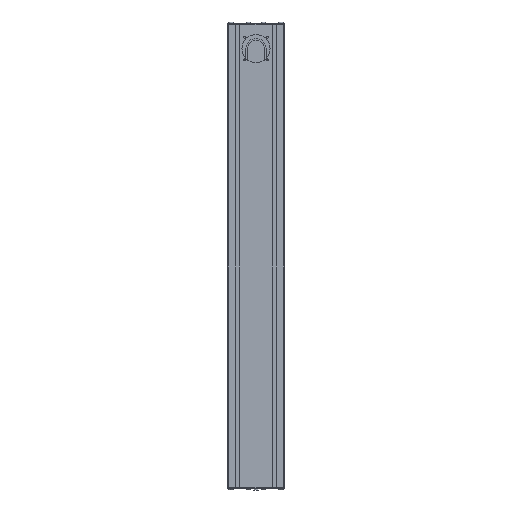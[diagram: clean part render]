
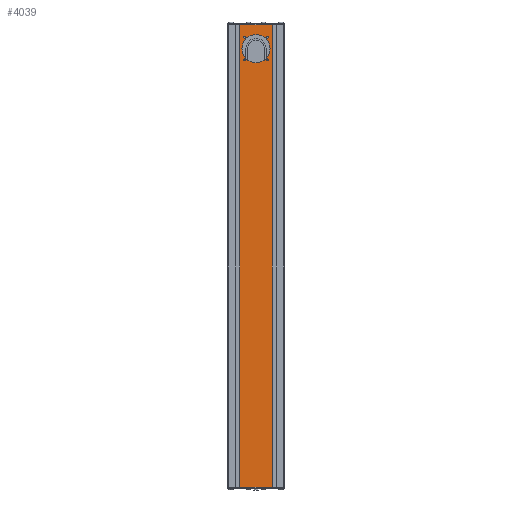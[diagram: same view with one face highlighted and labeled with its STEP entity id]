
A CAD part, front view. The second image highlights one B-rep face of the part: STEP entity #4039.
In plain terms, the highlighted planar face has unit normal (0, -1, 0).
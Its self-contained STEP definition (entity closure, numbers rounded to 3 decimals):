
#131 = DIRECTION ( 'NONE',  ( 0., -1., 0. ) ) ;
#152 = DIRECTION ( 'NONE',  ( 0., -1., 0. ) ) ;
#245 = CARTESIAN_POINT ( 'NONE',  ( 24.04, 0., 416.86 ) ) ;
#782 = DIRECTION ( 'NONE',  ( 0., -1., 0. ) ) ;
#1415 = CIRCLE ( 'NONE', #19534, 2.1 ) ;
#1771 = DIRECTION ( 'NONE',  ( 0., -1., 0. ) ) ;
#2212 = AXIS2_PLACEMENT_3D ( 'NONE', #22290, #2559, #16471 ) ;
#2431 = FACE_BOUND ( 'NONE', #14568, .T. ) ;
#2462 = ORIENTED_EDGE ( 'NONE', *, *, #14782, .F. ) ;
#2559 = DIRECTION ( 'NONE',  ( 0., -1., 0. ) ) ;
#2558 = AXIS2_PLACEMENT_3D ( 'NONE', #9844, #7104, #28988 ) ;
#2650 = EDGE_CURVE ( 'NONE', #35476, #6066, #8100, .T. ) ;
#2796 = PLANE ( 'NONE',  #12703 ) ;
#3815 = CARTESIAN_POINT ( 'NONE',  ( 0., 0., 443. ) ) ;
#3887 = DIRECTION ( 'NONE',  ( 0., 0., -1. ) ) ;
#4039 = ADVANCED_FACE ( 'NONE', ( #2431, #22694, #21989, #8126, #19282, #17068 ), #2796, .F. ) ;
#4565 = ORIENTED_EDGE ( 'NONE', *, *, #32263, .F. ) ;
#4613 = EDGE_CURVE ( 'NONE', #4957, #4918, #20094, .T. ) ;
#4918 = VERTEX_POINT ( 'NONE', #30763 ) ;
#4957 = VERTEX_POINT ( 'NONE', #20221 ) ;
#5219 = CARTESIAN_POINT ( 'NONE',  ( 34.95, 0., 494. ) ) ;
#5381 = CARTESIAN_POINT ( 'NONE',  ( -34.95, 0., 494. ) ) ;
#5587 = CARTESIAN_POINT ( 'NONE',  ( -24.04, 0., 416.86 ) ) ;
#5885 = CARTESIAN_POINT ( 'NONE',  ( 24.04, 0., 421.06 ) ) ;
#6066 = VERTEX_POINT ( 'NONE', #5587 ) ;
#6593 = VERTEX_POINT ( 'NONE', #32403 ) ;
#7071 = VECTOR ( 'NONE', #31847, 1000. ) ;
#7104 = DIRECTION ( 'NONE',  ( 0., -1., 0. ) ) ;
#7206 = DIRECTION ( 'NONE',  ( 1., 0., 0. ) ) ;
#7447 = DIRECTION ( 'NONE',  ( 0., -1., 0. ) ) ;
#7483 = EDGE_CURVE ( 'NONE', #33977, #27487, #31946, .T. ) ;
#7507 = VERTEX_POINT ( 'NONE', #23449 ) ;
#7861 = AXIS2_PLACEMENT_3D ( 'NONE', #3815, #1771, #23553 ) ;
#8100 = CIRCLE ( 'NONE', #2212, 2.1 ) ;
#8126 = FACE_BOUND ( 'NONE', #10744, .T. ) ;
#8374 = CARTESIAN_POINT ( 'NONE',  ( -24.04, 0., 467.04 ) ) ;
#9064 = ORIENTED_EDGE ( 'NONE', *, *, #14430, .F. ) ;
#9099 = CARTESIAN_POINT ( 'NONE',  ( -24.04, 0., 464.94 ) ) ;
#9434 = DIRECTION ( 'NONE',  ( 0., 0., -1. ) ) ;
#9448 = CIRCLE ( 'NONE', #18192, 30. ) ;
#9770 = LINE ( 'NONE', #15425, #13464 ) ;
#9844 = CARTESIAN_POINT ( 'NONE',  ( 24.04, 0., 467.04 ) ) ;
#10188 = CIRCLE ( 'NONE', #7861, 30. ) ;
#10660 = VECTOR ( 'NONE', #25049, 1000. ) ;
#10744 = EDGE_LOOP ( 'NONE', ( #30794, #9064 ) ) ;
#10990 = VERTEX_POINT ( 'NONE', #34581 ) ;
#11299 = DIRECTION ( 'NONE',  ( 0., 0., -1. ) ) ;
#11654 = EDGE_CURVE ( 'NONE', #34949, #10990, #10188, .T. ) ;
#11984 = EDGE_CURVE ( 'NONE', #28811, #32524, #1415, .T. ) ;
#12020 = EDGE_CURVE ( 'NONE', #7507, #6593, #23146, .T. ) ;
#12428 = AXIS2_PLACEMENT_3D ( 'NONE', #21318, #7447, #32582 ) ;
#12703 = AXIS2_PLACEMENT_3D ( 'NONE', #5381, #19643, #30719 ) ;
#13464 = VECTOR ( 'NONE', #7206, 1000. ) ;
#13926 = EDGE_CURVE ( 'NONE', #7507, #35451, #14317, .T. ) ;
#14097 = DIRECTION ( 'NONE',  ( 0., -1., 0. ) ) ;
#14317 = LINE ( 'NONE', #30710, #10660 ) ;
#14430 = EDGE_CURVE ( 'NONE', #4918, #4957, #15205, .T. ) ;
#14457 = VERTEX_POINT ( 'NONE', #14546 ) ;
#14546 = CARTESIAN_POINT ( 'NONE',  ( 34.95, 0., -494. ) ) ;
#14568 = EDGE_LOOP ( 'NONE', ( #2462, #30085 ) ) ;
#14782 = EDGE_CURVE ( 'NONE', #27487, #33977, #26249, .T. ) ;
#14972 = ORIENTED_EDGE ( 'NONE', *, *, #13926, .F. ) ;
#14983 = EDGE_CURVE ( 'NONE', #10990, #34949, #9448, .T. ) ;
#15174 = ORIENTED_EDGE ( 'NONE', *, *, #22604, .T. ) ;
#15202 = EDGE_LOOP ( 'NONE', ( #35811, #22797 ) ) ;
#15205 = CIRCLE ( 'NONE', #15777, 2.1 ) ;
#15425 = CARTESIAN_POINT ( 'NONE',  ( -34.95, 0., -494. ) ) ;
#15489 = EDGE_CURVE ( 'NONE', #35451, #14457, #16169, .T. ) ;
#15777 = AXIS2_PLACEMENT_3D ( 'NONE', #28930, #17469, #9434 ) ;
#16169 = LINE ( 'NONE', #26732, #18814 ) ;
#16471 = DIRECTION ( 'NONE',  ( 0., 0., -1. ) ) ;
#17068 = FACE_OUTER_BOUND ( 'NONE', #32167, .T. ) ;
#17469 = DIRECTION ( 'NONE',  ( 0., -1., 0. ) ) ;
#18192 = AXIS2_PLACEMENT_3D ( 'NONE', #22110, #14097, #33221 ) ;
#18814 = VECTOR ( 'NONE', #32368, 1000. ) ;
#18923 = EDGE_LOOP ( 'NONE', ( #19703, #19370 ) ) ;
#19005 = DIRECTION ( 'NONE',  ( 0., 0., -1. ) ) ;
#19282 = FACE_BOUND ( 'NONE', #15202, .T. ) ;
#19370 = ORIENTED_EDGE ( 'NONE', *, *, #2650, .F. ) ;
#19534 = AXIS2_PLACEMENT_3D ( 'NONE', #8374, #131, #11299 ) ;
#19546 = CARTESIAN_POINT ( 'NONE',  ( -24.04, 0., 418.96 ) ) ;
#19643 = DIRECTION ( 'NONE',  ( 0., 1., 0. ) ) ;
#19667 = CARTESIAN_POINT ( 'NONE',  ( -24.04, 0., 421.06 ) ) ;
#19703 = ORIENTED_EDGE ( 'NONE', *, *, #31726, .F. ) ;
#20094 = CIRCLE ( 'NONE', #2558, 2.1 ) ;
#20221 = CARTESIAN_POINT ( 'NONE',  ( 24.04, 0., 464.94 ) ) ;
#20398 = CARTESIAN_POINT ( 'NONE',  ( -24.04, 0., 469.14 ) ) ;
#20718 = DIRECTION ( 'NONE',  ( 0., -1., 0. ) ) ;
#21318 = CARTESIAN_POINT ( 'NONE',  ( -24.04, 0., 467.04 ) ) ;
#21989 = FACE_BOUND ( 'NONE', #27698, .T. ) ;
#22110 = CARTESIAN_POINT ( 'NONE',  ( 0., 0., 443. ) ) ;
#22290 = CARTESIAN_POINT ( 'NONE',  ( -24.04, 0., 418.96 ) ) ;
#22604 = EDGE_CURVE ( 'NONE', #6593, #14457, #9770, .T. ) ;
#22694 = FACE_BOUND ( 'NONE', #18923, .T. ) ;
#22797 = ORIENTED_EDGE ( 'NONE', *, *, #14983, .F. ) ;
#22863 = CIRCLE ( 'NONE', #12428, 2.1 ) ;
#23146 = LINE ( 'NONE', #34239, #7071 ) ;
#23449 = CARTESIAN_POINT ( 'NONE',  ( -34.95, 0., 494. ) ) ;
#23456 = CIRCLE ( 'NONE', #24014, 2.1 ) ;
#23553 = DIRECTION ( 'NONE',  ( 0., 0., -1. ) ) ;
#23802 = CARTESIAN_POINT ( 'NONE',  ( 24.04, 0., 418.96 ) ) ;
#24014 = AXIS2_PLACEMENT_3D ( 'NONE', #19546, #152, #19005 ) ;
#25049 = DIRECTION ( 'NONE',  ( 1., 0., 0. ) ) ;
#26249 = CIRCLE ( 'NONE', #34385, 2.1 ) ;
#26732 = CARTESIAN_POINT ( 'NONE',  ( 34.95, 0., 494. ) ) ;
#27487 = VERTEX_POINT ( 'NONE', #245 ) ;
#27698 = EDGE_LOOP ( 'NONE', ( #28233, #4565 ) ) ;
#28233 = ORIENTED_EDGE ( 'NONE', *, *, #11984, .F. ) ;
#28811 = VERTEX_POINT ( 'NONE', #9099 ) ;
#28930 = CARTESIAN_POINT ( 'NONE',  ( 24.04, 0., 467.04 ) ) ;
#28988 = DIRECTION ( 'NONE',  ( 0., 0., -1. ) ) ;
#29859 = ORIENTED_EDGE ( 'NONE', *, *, #15489, .F. ) ;
#30085 = ORIENTED_EDGE ( 'NONE', *, *, #7483, .F. ) ;
#30710 = CARTESIAN_POINT ( 'NONE',  ( -34.95, 0., 494. ) ) ;
#30719 = DIRECTION ( 'NONE',  ( 0., 0., 1. ) ) ;
#30763 = CARTESIAN_POINT ( 'NONE',  ( 24.04, 0., 469.14 ) ) ;
#30794 = ORIENTED_EDGE ( 'NONE', *, *, #4613, .F. ) ;
#31423 = CARTESIAN_POINT ( 'NONE',  ( 24.04, 0., 418.96 ) ) ;
#31726 = EDGE_CURVE ( 'NONE', #6066, #35476, #23456, .T. ) ;
#31847 = DIRECTION ( 'NONE',  ( 0., 0., -1. ) ) ;
#31946 = CIRCLE ( 'NONE', #33683, 2.1 ) ;
#32167 = EDGE_LOOP ( 'NONE', ( #15174, #29859, #14972, #35618 ) ) ;
#32263 = EDGE_CURVE ( 'NONE', #32524, #28811, #22863, .T. ) ;
#32368 = DIRECTION ( 'NONE',  ( 0., 0., -1. ) ) ;
#32403 = CARTESIAN_POINT ( 'NONE',  ( -34.95, 0., -494. ) ) ;
#32524 = VERTEX_POINT ( 'NONE', #20398 ) ;
#32582 = DIRECTION ( 'NONE',  ( 0., 0., -1. ) ) ;
#33221 = DIRECTION ( 'NONE',  ( 0., 0., -1. ) ) ;
#33683 = AXIS2_PLACEMENT_3D ( 'NONE', #23802, #20718, #34548 ) ;
#33977 = VERTEX_POINT ( 'NONE', #5885 ) ;
#34239 = CARTESIAN_POINT ( 'NONE',  ( -34.95, 0., 494. ) ) ;
#34385 = AXIS2_PLACEMENT_3D ( 'NONE', #31423, #782, #3887 ) ;
#34548 = DIRECTION ( 'NONE',  ( 0., 0., -1. ) ) ;
#34581 = CARTESIAN_POINT ( 'NONE',  ( 0., 0., 473. ) ) ;
#34949 = VERTEX_POINT ( 'NONE', #35186 ) ;
#35186 = CARTESIAN_POINT ( 'NONE',  ( 0., 0., 413. ) ) ;
#35451 = VERTEX_POINT ( 'NONE', #5219 ) ;
#35476 = VERTEX_POINT ( 'NONE', #19667 ) ;
#35618 = ORIENTED_EDGE ( 'NONE', *, *, #12020, .T. ) ;
#35811 = ORIENTED_EDGE ( 'NONE', *, *, #11654, .F. ) ;
